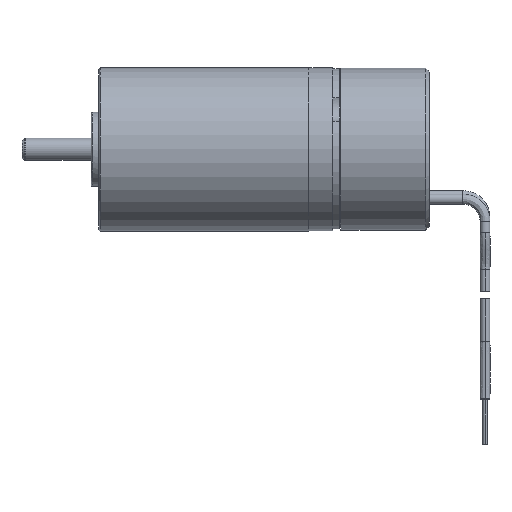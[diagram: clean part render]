
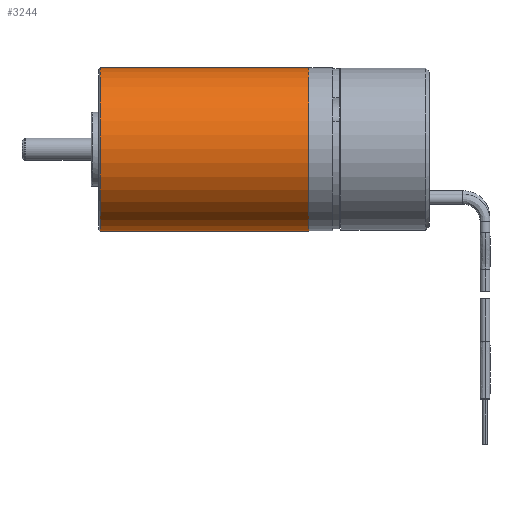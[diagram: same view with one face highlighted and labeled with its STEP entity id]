
A CAD part, top view. The second image highlights one B-rep face of the part: STEP entity #3244.
In plain terms, the highlighted cylindrical face has radius 11 mm (diameter 22 mm), a partial arc.
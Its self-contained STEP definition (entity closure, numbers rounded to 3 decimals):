
#882=CARTESIAN_POINT('',(0.2,0.,0.));
#883=DIRECTION('',(-1.,0.,0.));
#884=DIRECTION('',(0.,-1.,0.));
#885=AXIS2_PLACEMENT_3D('',#882,#883,#884);
#890=DIRECTION('',(-1.,0.,0.));
#891=VECTOR('',#890,28.1);
#892=CARTESIAN_POINT('',(28.3,11.,0.));
#893=LINE('',#892,#891);
#897=CARTESIAN_POINT('',(28.3,0.,0.));
#898=DIRECTION('',(1.,0.,0.));
#899=DIRECTION('',(0.,1.,0.));
#900=AXIS2_PLACEMENT_3D('',#897,#898,#899);
#905=DIRECTION('',(-1.,0.,0.));
#906=VECTOR('',#905,28.1);
#907=CARTESIAN_POINT('',(28.3,-11.,0.));
#908=LINE('',#907,#906);
#2009=CARTESIAN_POINT('',(28.3,11.,0.));
#2010=CARTESIAN_POINT('',(28.3,-11.,0.));
#2011=VERTEX_POINT('',#2009);
#2012=VERTEX_POINT('',#2010);
#2047=CARTESIAN_POINT('',(0.2,-11.,0.));
#2048=CARTESIAN_POINT('',(0.2,11.,0.));
#2049=VERTEX_POINT('',#2047);
#2050=VERTEX_POINT('',#2048);
#3230=CARTESIAN_POINT('',(32.865,0.,0.));
#3231=DIRECTION('',(-1.,0.,0.));
#3232=DIRECTION('',(0.,1.,0.));
#3233=AXIS2_PLACEMENT_3D('',#3230,#3231,#3232);
#3234=CYLINDRICAL_SURFACE('',#3233,11.);
#3236=ORIENTED_EDGE('',*,*,#3235,.T.);
#3238=ORIENTED_EDGE('',*,*,#3237,.F.);
#3239=ORIENTED_EDGE('',*,*,#3212,.T.);
#3241=ORIENTED_EDGE('',*,*,#3240,.T.);
#3242=EDGE_LOOP('',(#3236,#3238,#3239,#3241));
#3243=FACE_OUTER_BOUND('',#3242,.F.);
#3244=ADVANCED_FACE('',(#3243),#3234,.T.);
#886=CIRCLE('',#885,11.);
#901=CIRCLE('',#900,11.);
#3212=EDGE_CURVE('',#2011,#2012,#901,.T.);
#3235=EDGE_CURVE('',#2049,#2050,#886,.T.);
#3237=EDGE_CURVE('',#2011,#2050,#893,.T.);
#3240=EDGE_CURVE('',#2012,#2049,#908,.T.);
